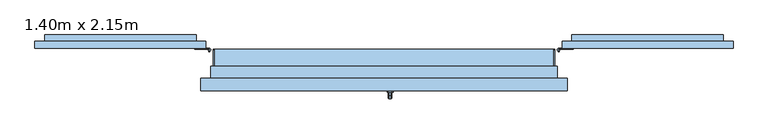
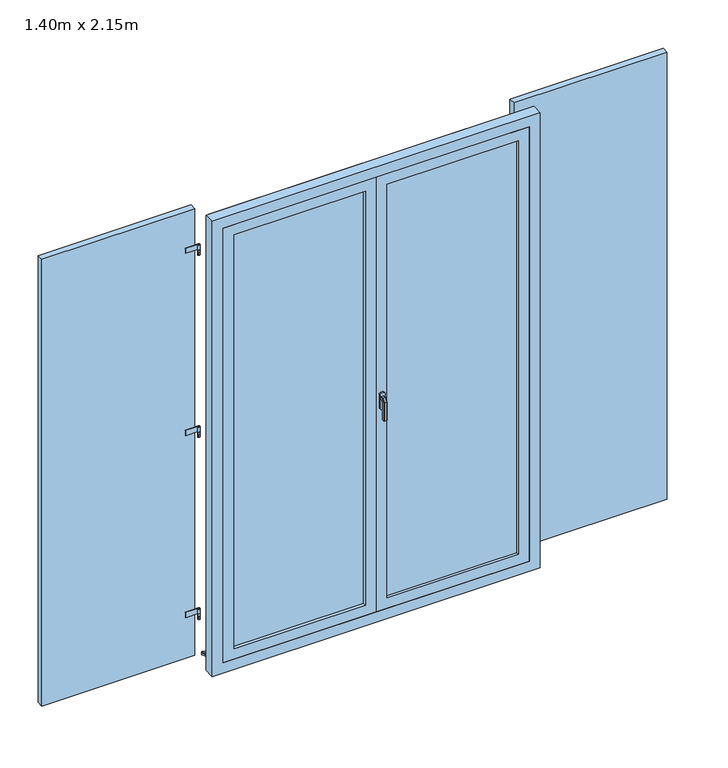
"""IFC4 building model written with IfcOpenShell, lengths in millimetres: window geometry, PF 2 Vantaux droits - Volets et petits bois : 1.40m x 2.15m."""

from ifc_helpers import new_model, si_unit, point, frame, frame_2d, origin, place, context, project, spatial, polyline, circle_curve, trimmed, segment, composite_curve, outline, extrude, faceted_brep, source, transform, mapped, element, save
from ifc_brep_helpers import plane_surface, cylinder_surface, advanced_brep


def window_1_40m_x_2_15m_9bc1c939(model_context):
    return source(origin(), model_context, "Body", "SolidModel", [
        extrude(outline(polyline([(-1430.0, 93.0), (-1430.0, 123.0), (-730.0, 123.0), (-730.0, 93.0), (-1430.0, 93.0)])), frame((0.0, 0.0, 25.0), z_axis=(0.0, 0.0, 1.0), x_axis=(1.0, 0.0, 0.0)), (0.0, 0.0, 1.0), 2160.0),
        advanced_brep(
        [(-710.0, 88.0, 225.0), (-720.0, 88.0, 225.0), (-710.0, 88.0, 200.0), (-720.0, 88.0, 200.0), (-717.0, 83.4174243, 205.0), (-717.0, 83.4174243, 215.0), (-713.0, 83.4174243, 215.0), (-713.0, 83.4174243, 205.0), (-713.0, 80.0, 215.0), (-717.0, 80.0, 215.0), (-717.0, 80.0, 205.0), (-713.0, 80.0, 205.0)],
        [
            (0, 1, circle_curve(frame((-715.0, 88.0, 225.0), z_axis=(0.0, 0.0, 1.0), x_axis=(-1.0, 0.0, 0.0)), 5.0)),
            (1, 0, circle_curve(frame((-715.0, 88.0, 225.0), z_axis=(0.0, 0.0, 1.0), x_axis=(-1.0, 0.0, 0.0)), 5.0)),
            (2, 3, circle_curve(frame((-715.0, 88.0, 200.0), z_axis=(0.0, 0.0, -1.0), x_axis=(-1.0, 0.0, 0.0)), 5.0)),
            (3, 2, circle_curve(frame((-715.0, 88.0, 200.0), z_axis=(0.0, 0.0, -1.0), x_axis=(-1.0, 0.0, 0.0)), 5.0)),
            (1, 3),
            (2, 0),
            (4, 5),
            (5, 6, circle_curve(frame((-715.0, 88.0, 215.0), z_axis=(0.0, 0.0, 1.0), x_axis=(-1.0, 0.0, 0.0)), 5.0)),
            (6, 7),
            (7, 4, circle_curve(frame((-715.0, 88.0, 205.0), z_axis=(0.0, 0.0, -1.0), x_axis=(-1.0, 0.0, 0.0)), 5.0)),
            (8, 6),
            (5, 9),
            (9, 8),
            (10, 4),
            (7, 11),
            (11, 10),
            (10, 9),
            (8, 11),
        ],
        [
            plane_surface(frame((-720.0, 88.0, 225.0), z_axis=(0.0, 0.0, 1.0), x_axis=(0.0, 1.0, 0.0))),
            plane_surface(frame((-720.0, 88.0, 200.0), z_axis=(0.0, 0.0, -1.0), x_axis=(0.0, -1.0, 0.0))),
            cylinder_surface(frame((-715.0, 88.0, 200.0), z_axis=(0.0, 0.0, 1.0), x_axis=(-1.0, 0.0, 0.0)), 5.0),
            plane_surface(frame((-717.0, 80.0, 215.0), z_axis=(0.0, 0.0, 1.0), x_axis=(0.0, 1.0, 0.0))),
            plane_surface(frame((-717.0, 80.0, 205.0), z_axis=(0.0, 0.0, -1.0), x_axis=(0.0, -1.0, 0.0))),
            plane_surface(frame((-717.0, 80.0, 215.0), z_axis=(-1.0, 0.0, 0.0), x_axis=(0.0, 0.0, -1.0))),
            plane_surface(frame((-713.0, 85.0, 215.0), z_axis=(1.0, 0.0, 0.0), x_axis=(0.0, 0.0, -1.0))),
            plane_surface(frame((-713.0, 80.0, 215.0), z_axis=(0.0, -1.0, 0.0), x_axis=(0.0, 0.0, -1.0))),
        ],
        [
            (0, [[1, 2]]),
            (1, [[3, 4]]),
            (2, [[5, -3, 6, -2], [7, 8, 9, 10]]),
            (2, [[-6, -4, -5, -1]]),
            (3, [[11, -8, 12, 13]]),
            (4, [[14, -10, 15, 16]]),
            (5, [[-12, -7, -14, 17]]),
            (6, [[-15, -9, -11, 18]]),
            (7, [[-17, -16, -18, -13]]),
        ],
    ),
        extrude(outline(composite_curve([segment(trimmed(circle_curve(frame_2d((-715.0, 88.0)), 5.0), [point((-715.0, 93.0))], [point((-720.0, 88.0))], False, "CARTESIAN"), True, "CONTINUOUS"), segment(polyline([(-720.0, 88.0), (-717.5, 88.0)]), True, "CONTINUOUS"), segment(trimmed(circle_curve(frame_2d((-715.0, 88.0)), 2.5), [point((-717.5, 88.0))], [point((-715.0, 90.5))], True, "CARTESIAN"), True, "CONTINUOUS"), segment(polyline([(-715.0, 90.5), (-774.3092325, 90.5), (-774.3092325, 93.0), (-715.0, 93.0)]), True, "CONTINUOUS")], self_intersect=False)), frame((0.0, 0.0, 225.0), z_axis=(0.0, 0.0, 1.0), x_axis=(1.0, 0.0, 0.0)), (0.0, 0.0, 1.0), 25.0),
        extrude(outline(composite_curve([segment(trimmed(circle_curve(frame_2d((-715.0, 88.0)), 2.5), [point((-712.5, 88.0))], [point((-717.5, 88.0))], False, "CARTESIAN"), True, "CONTINUOUS"), segment(trimmed(circle_curve(frame_2d((-715.0, 88.0)), 2.5), [point((-717.5, 88.0))], [point((-712.5, 88.0))], False, "CARTESIAN"), True, "CONTINUOUS")], self_intersect=False)), frame((0.0, 0.0, 225.0), z_axis=(0.0, 0.0, 1.0), x_axis=(1.0, 0.0, 0.0)), (0.0, 0.0, 1.0), 25.0),
        advanced_brep(
        [(-710.0, 88.0, 1985.0), (-720.0, 88.0, 1985.0), (-710.0, 88.0, 1960.0), (-720.0, 88.0, 1960.0), (-713.0, 83.4174243, 1975.0), (-713.0, 83.4174243, 1965.0), (-717.0, 83.4174243, 1965.0), (-717.0, 83.4174243, 1975.0), (-713.0, 80.0, 1975.0), (-717.0, 80.0, 1975.0), (-713.0, 80.0, 1965.0), (-717.0, 80.0, 1965.0)],
        [
            (0, 1, circle_curve(frame((-715.0, 88.0, 1985.0), z_axis=(0.0, 0.0, 1.0), x_axis=(-1.0, 0.0, 0.0)), 5.0)),
            (1, 0, circle_curve(frame((-715.0, 88.0, 1985.0), z_axis=(0.0, 0.0, 1.0), x_axis=(-1.0, 0.0, 0.0)), 5.0)),
            (2, 3, circle_curve(frame((-715.0, 88.0, 1960.0), z_axis=(0.0, 0.0, -1.0), x_axis=(-1.0, 0.0, 0.0)), 5.0)),
            (3, 2, circle_curve(frame((-715.0, 88.0, 1960.0), z_axis=(0.0, 0.0, -1.0), x_axis=(-1.0, 0.0, 0.0)), 5.0)),
            (1, 3),
            (2, 0),
            (4, 5),
            (5, 6, circle_curve(frame((-715.0, 88.0, 1965.0), z_axis=(0.0, 0.0, -1.0), x_axis=(-1.0, 0.0, 0.0)), 5.0)),
            (6, 7),
            (7, 4, circle_curve(frame((-715.0, 88.0, 1975.0), z_axis=(0.0, 0.0, 1.0), x_axis=(-1.0, 0.0, 0.0)), 5.0)),
            (8, 4),
            (7, 9),
            (9, 8),
            (10, 11),
            (11, 6),
            (5, 10),
            (9, 11),
            (10, 8),
        ],
        [
            plane_surface(frame((-720.0, 88.0, 1985.0), z_axis=(0.0, 0.0, 1.0), x_axis=(0.0, 1.0, 0.0))),
            plane_surface(frame((-720.0, 88.0, 1960.0), z_axis=(0.0, 0.0, -1.0), x_axis=(0.0, -1.0, 0.0))),
            cylinder_surface(frame((-715.0, 88.0, 1960.0), z_axis=(0.0, 0.0, 1.0), x_axis=(-1.0, 0.0, 0.0)), 5.0),
            plane_surface(frame((-713.0, 80.0, 1975.0), z_axis=(0.0, 0.0, 1.0), x_axis=(-1.0, 0.0, 0.0))),
            plane_surface(frame((-713.0, 80.0, 1965.0), z_axis=(0.0, 0.0, -1.0), x_axis=(1.0, 0.0, 0.0))),
            plane_surface(frame((-713.0, 80.0, 1975.0), z_axis=(0.0, -1.0, 0.0), x_axis=(0.0, 0.0, -1.0))),
            plane_surface(frame((-717.0, 80.0, 1975.0), z_axis=(-1.0, 0.0, 0.0), x_axis=(0.0, 0.0, -1.0))),
            plane_surface(frame((-713.0, 83.4174243, 1975.0), z_axis=(1.0, 0.0, 0.0), x_axis=(0.0, 0.0, -1.0))),
        ],
        [
            (0, [[1, 2]]),
            (1, [[3, 4]]),
            (2, [[5, -3, 6, -2], [7, 8, 9, 10]]),
            (2, [[-6, -4, -5, -1]]),
            (3, [[11, -10, 12, 13]]),
            (4, [[14, 15, -8, 16]]),
            (5, [[17, -14, 18, -13]]),
            (6, [[-9, -15, -17, -12]]),
            (7, [[-18, -16, -7, -11]]),
        ],
    ),
        extrude(outline(polyline([(-713.0, 80.0), (-717.0, 80.0), (-717.0, 83.4174243), (-713.0, 83.4174243), (-713.0, 80.0)])), frame((0.0, 0.0, 1085.0), z_axis=(0.0, 0.0, 1.0), x_axis=(1.0, 0.0, 0.0)), (0.0, 0.0, 1.0), 10.0),
        extrude(outline(composite_curve([segment(trimmed(circle_curve(frame_2d((-715.0, 88.0)), 5.0), [point((-715.0, 93.0))], [point((-720.0, 88.0))], False, "CARTESIAN"), True, "CONTINUOUS"), segment(polyline([(-720.0, 88.0), (-717.5, 88.0)]), True, "CONTINUOUS"), segment(trimmed(circle_curve(frame_2d((-715.0, 88.0)), 2.5), [point((-717.5, 88.0))], [point((-712.5, 88.0))], True, "CARTESIAN"), True, "CONTINUOUS"), segment(trimmed(circle_curve(frame_2d((-715.0, 88.0)), 2.5), [point((-712.5, 88.0))], [point((-715.0, 90.5))], True, "CARTESIAN"), True, "CONTINUOUS"), segment(polyline([(-715.0, 90.5), (-774.3092325, 90.5), (-774.3092325, 93.0), (-715.0, 93.0)]), True, "CONTINUOUS")], self_intersect=False)), frame((0.0, 0.0, 1105.0), z_axis=(0.0, 0.0, 1.0), x_axis=(1.0, 0.0, 0.0)), (0.0, 0.0, 1.0), 25.0),
        extrude(outline(composite_curve([segment(trimmed(circle_curve(frame_2d((-715.0, 88.0)), 2.5), [point((-712.5, 88.0))], [point((-717.5, 88.0))], False, "CARTESIAN"), True, "CONTINUOUS"), segment(trimmed(circle_curve(frame_2d((-715.0, 88.0)), 2.5), [point((-717.5, 88.0))], [point((-712.5, 88.0))], False, "CARTESIAN"), True, "CONTINUOUS")], self_intersect=False)), frame((0.0, 0.0, 1105.0), z_axis=(0.0, 0.0, 1.0), x_axis=(1.0, 0.0, 0.0)), (0.0, 0.0, 1.0), 25.0),
        extrude(outline(composite_curve([segment(trimmed(circle_curve(frame_2d((-715.0, 88.0)), 5.0), [point((-710.0, 88.0))], [point((-720.0, 88.0))], False, "CARTESIAN"), True, "CONTINUOUS"), segment(trimmed(circle_curve(frame_2d((-715.0, 88.0)), 5.0), [point((-720.0, 88.0))], [point((-710.0, 88.0))], False, "CARTESIAN"), True, "CONTINUOUS")], self_intersect=False)), frame((0.0, 0.0, 1080.0), z_axis=(0.0, 0.0, 1.0), x_axis=(1.0, 0.0, 0.0)), (0.0, 0.0, 1.0), 25.0),
        extrude(outline(composite_curve([segment(trimmed(circle_curve(frame_2d((-715.0, 88.0)), 5.0), [point((-715.0, 93.0))], [point((-720.0, 88.0))], False, "CARTESIAN"), True, "CONTINUOUS"), segment(polyline([(-720.0, 88.0), (-717.5, 88.0)]), True, "CONTINUOUS"), segment(trimmed(circle_curve(frame_2d((-715.0, 88.0)), 2.5), [point((-717.5, 88.0))], [point((-715.0, 90.5))], True, "CARTESIAN"), True, "CONTINUOUS"), segment(polyline([(-715.0, 90.5), (-774.3092325, 90.5), (-774.3092325, 93.0), (-715.0, 93.0)]), True, "CONTINUOUS")], self_intersect=False)), frame((0.0, 0.0, 1985.0), z_axis=(0.0, 0.0, 1.0), x_axis=(1.0, 0.0, 0.0)), (0.0, 0.0, 1.0), 25.0),
        extrude(outline(composite_curve([segment(trimmed(circle_curve(frame_2d((-715.0, 88.0)), 2.5), [point((-712.5, 88.0))], [point((-717.5, 88.0))], False, "CARTESIAN"), True, "CONTINUOUS"), segment(trimmed(circle_curve(frame_2d((-715.0, 88.0)), 2.5), [point((-717.5, 88.0))], [point((-712.5, 88.0))], False, "CARTESIAN"), True, "CONTINUOUS")], self_intersect=False)), frame((0.0, 0.0, 1985.0), z_axis=(0.0, 0.0, 1.0), x_axis=(1.0, 0.0, 0.0)), (0.0, 0.0, 1.0), 25.0),
        extrude(outline(polyline([(1945.0, -1294.3474888), (1945.0, -1390.0), (1145.0, -865.6525112), (1145.0, -770.0), (1945.0, -1294.3474888)])), frame((0.0, 123.0, 0.0), z_axis=(0.0, 1.0, 0.0), x_axis=(0.0, 0.0, 1.0)), (0.0, 0.0, 1.0), 25.0),
        extrude(outline(polyline([(265.0, -865.6532364), (265.0, -770.0007252), (1065.0, -1294.3482141), (1065.0, -1390.0007252), (265.0, -865.6532364)])), frame((0.0, 123.0, 0.0), z_axis=(0.0, 1.0, 0.0), x_axis=(0.0, 0.0, 1.0)), (0.0, 0.0, 1.0), 25.0),
        extrude(outline(polyline([(-770.0, 148.0), (-770.0, 123.0), (-1390.0, 123.0), (-1390.0, 148.0), (-770.0, 148.0)])), frame((0.0, 0.0, 1945.0), z_axis=(0.0, 0.0, 1.0), x_axis=(1.0, 0.0, 0.0)), (0.0, 0.0, 1.0), 80.0),
        extrude(outline(polyline([(-770.0, 148.0), (-770.0, 123.0), (-1390.0, 123.0), (-1390.0, 148.0), (-770.0, 148.0)])), frame((0.0, 0.0, 185.0), z_axis=(0.0, 0.0, 1.0), x_axis=(1.0, 0.0, 0.0)), (0.0, 0.0, 1.0), 80.0),
        extrude(outline(polyline([(-770.0, 148.0), (-770.0, 123.0), (-1390.0, 123.0), (-1390.0, 148.0), (-770.0, 148.0)])), frame((0.0, 0.0, 1065.0), z_axis=(0.0, 0.0, 1.0), x_axis=(1.0, 0.0, 0.0)), (0.0, 0.0, 1.0), 80.0),
        extrude(outline(polyline([(1430.0, 93.0), (730.0, 93.0), (730.0, 123.0), (1430.0, 123.0), (1430.0, 93.0)])), frame((0.0, 0.0, 25.0), z_axis=(0.0, 0.0, 1.0), x_axis=(1.0, 0.0, 0.0)), (0.0, 0.0, 1.0), 2160.0),
        advanced_brep(
        [(710.0, 88.0, 225.0), (720.0, 88.0, 225.0), (710.0, 88.0, 200.0), (720.0, 88.0, 200.0), (717.0, 83.4174243, 205.0), (713.0, 83.4174243, 205.0), (713.0, 83.4174243, 215.0), (717.0, 83.4174243, 215.0), (713.0, 80.0, 215.0), (717.0, 80.0, 215.0), (717.0, 80.0, 205.0), (713.0, 80.0, 205.0)],
        [
            (0, 1, circle_curve(frame((715.0, 88.0, 225.0), z_axis=(0.0, 0.0, 1.0), x_axis=(1.0, 0.0, 0.0)), 5.0)),
            (1, 0, circle_curve(frame((715.0, 88.0, 225.0), z_axis=(0.0, 0.0, 1.0), x_axis=(1.0, 0.0, 0.0)), 5.0)),
            (2, 3, circle_curve(frame((715.0, 88.0, 200.0), z_axis=(0.0, 0.0, -1.0), x_axis=(1.0, 0.0, 0.0)), 5.0)),
            (3, 2, circle_curve(frame((715.0, 88.0, 200.0), z_axis=(0.0, 0.0, -1.0), x_axis=(1.0, 0.0, 0.0)), 5.0)),
            (0, 2),
            (3, 1),
            (4, 5, circle_curve(frame((715.0, 88.0, 205.0), z_axis=(0.0, 0.0, -1.0), x_axis=(1.0, 0.0, 0.0)), 5.0)),
            (5, 6),
            (6, 7, circle_curve(frame((715.0, 88.0, 215.0), z_axis=(0.0, 0.0, 1.0), x_axis=(1.0, 0.0, 0.0)), 5.0)),
            (7, 4),
            (8, 9),
            (9, 7),
            (6, 8),
            (10, 11),
            (11, 5),
            (4, 10),
            (9, 10),
            (11, 8),
        ],
        [
            plane_surface(frame((720.0, 88.0, 225.0), z_axis=(0.0, 0.0, 1.0), x_axis=(0.0, 1.0, 0.0))),
            plane_surface(frame((720.0, 88.0, 200.0), z_axis=(0.0, 0.0, -1.0), x_axis=(0.0, -1.0, 0.0))),
            cylinder_surface(frame((715.0, 88.0, 200.0), z_axis=(0.0, 0.0, 1.0), x_axis=(1.0, 0.0, 0.0)), 5.0),
            plane_surface(frame((717.0, 80.0, 215.0), z_axis=(0.0, 0.0, 1.0), x_axis=(0.0, 1.0, 0.0))),
            plane_surface(frame((717.0, 80.0, 205.0), z_axis=(0.0, 0.0, -1.0), x_axis=(0.0, -1.0, 0.0))),
            plane_surface(frame((717.0, 80.0, 215.0), z_axis=(1.0, 0.0, 0.0), x_axis=(0.0, 0.0, -1.0))),
            plane_surface(frame((713.0, 85.0, 215.0), z_axis=(-1.0, 0.0, 0.0), x_axis=(0.0, 0.0, -1.0))),
            plane_surface(frame((713.0, 80.0, 215.0), z_axis=(0.0, -1.0, 0.0), x_axis=(0.0, 0.0, -1.0))),
        ],
        [
            (0, [[1, 2]]),
            (1, [[3, 4]]),
            (2, [[-1, 5, -4, 6], [7, 8, 9, 10]]),
            (2, [[-2, -6, -3, -5]]),
            (3, [[11, 12, -9, 13]]),
            (4, [[14, 15, -7, 16]]),
            (5, [[17, -16, -10, -12]]),
            (6, [[18, -13, -8, -15]]),
            (7, [[-11, -18, -14, -17]]),
        ],
    ),
        extrude(outline(composite_curve([segment(polyline([(715.0, 93.0), (774.3092325, 93.0), (774.3092325, 90.5), (715.0, 90.5)]), True, "CONTINUOUS"), segment(trimmed(circle_curve(frame_2d((715.0, 88.0)), 2.5), [point((715.0, 90.5))], [point((717.5, 88.0))], True, "CARTESIAN"), True, "CONTINUOUS"), segment(polyline([(717.5, 88.0), (720.0, 88.0)]), True, "CONTINUOUS"), segment(trimmed(circle_curve(frame_2d((715.0, 88.0)), 5.0), [point((720.0, 88.0))], [point((715.0, 93.0))], False, "CARTESIAN"), True, "CONTINUOUS")], self_intersect=False)), frame((0.0, 0.0, 225.0), z_axis=(0.0, 0.0, 1.0), x_axis=(1.0, 0.0, 0.0)), (0.0, 0.0, 1.0), 25.0),
        extrude(outline(composite_curve([segment(trimmed(circle_curve(frame_2d((715.0, 88.0)), 2.5), [point((712.5, 88.0))], [point((717.5, 88.0))], False, "CARTESIAN"), True, "CONTINUOUS"), segment(trimmed(circle_curve(frame_2d((715.0, 88.0)), 2.5), [point((717.5, 88.0))], [point((712.5, 88.0))], False, "CARTESIAN"), True, "CONTINUOUS")], self_intersect=False)), frame((0.0, 0.0, 225.0), z_axis=(0.0, 0.0, 1.0), x_axis=(1.0, 0.0, 0.0)), (0.0, 0.0, 1.0), 25.0),
        advanced_brep(
        [(710.0, 88.0, 1985.0), (720.0, 88.0, 1985.0), (710.0, 88.0, 1960.0), (720.0, 88.0, 1960.0), (713.0, 83.4174243, 1975.0), (717.0, 83.4174243, 1975.0), (717.0, 83.4174243, 1965.0), (713.0, 83.4174243, 1965.0), (713.0, 80.0, 1975.0), (717.0, 80.0, 1975.0), (713.0, 80.0, 1965.0), (717.0, 80.0, 1965.0)],
        [
            (0, 1, circle_curve(frame((715.0, 88.0, 1985.0), z_axis=(0.0, 0.0, 1.0), x_axis=(1.0, 0.0, 0.0)), 5.0)),
            (1, 0, circle_curve(frame((715.0, 88.0, 1985.0), z_axis=(0.0, 0.0, 1.0), x_axis=(1.0, 0.0, 0.0)), 5.0)),
            (2, 3, circle_curve(frame((715.0, 88.0, 1960.0), z_axis=(0.0, 0.0, -1.0), x_axis=(1.0, 0.0, 0.0)), 5.0)),
            (3, 2, circle_curve(frame((715.0, 88.0, 1960.0), z_axis=(0.0, 0.0, -1.0), x_axis=(1.0, 0.0, 0.0)), 5.0)),
            (0, 2),
            (3, 1),
            (4, 5, circle_curve(frame((715.0, 88.0, 1975.0), z_axis=(0.0, 0.0, 1.0), x_axis=(1.0, 0.0, 0.0)), 5.0)),
            (5, 6),
            (6, 7, circle_curve(frame((715.0, 88.0, 1965.0), z_axis=(0.0, 0.0, -1.0), x_axis=(1.0, 0.0, 0.0)), 5.0)),
            (7, 4),
            (8, 9),
            (9, 5),
            (4, 8),
            (10, 7),
            (6, 11),
            (11, 10),
            (8, 10),
            (11, 9),
        ],
        [
            plane_surface(frame((720.0, 88.0, 1985.0), z_axis=(0.0, 0.0, 1.0), x_axis=(0.0, 1.0, 0.0))),
            plane_surface(frame((720.0, 88.0, 1960.0), z_axis=(0.0, 0.0, -1.0), x_axis=(0.0, -1.0, 0.0))),
            cylinder_surface(frame((715.0, 88.0, 1960.0), z_axis=(0.0, 0.0, 1.0), x_axis=(1.0, 0.0, 0.0)), 5.0),
            plane_surface(frame((713.0, 80.0, 1975.0), z_axis=(0.0, 0.0, 1.0), x_axis=(1.0, 0.0, 0.0))),
            plane_surface(frame((713.0, 80.0, 1965.0), z_axis=(0.0, 0.0, -1.0), x_axis=(-1.0, 0.0, 0.0))),
            plane_surface(frame((713.0, 80.0, 1975.0), z_axis=(0.0, -1.0, 0.0), x_axis=(0.0, 0.0, -1.0))),
            plane_surface(frame((717.0, 80.0, 1975.0), z_axis=(1.0, 0.0, 0.0), x_axis=(0.0, 0.0, -1.0))),
            plane_surface(frame((713.0, 83.4174243, 1975.0), z_axis=(-1.0, 0.0, 0.0), x_axis=(0.0, 0.0, -1.0))),
        ],
        [
            (0, [[1, 2]]),
            (1, [[3, 4]]),
            (2, [[-1, 5, -4, 6], [7, 8, 9, 10]]),
            (2, [[-2, -6, -3, -5]]),
            (3, [[11, 12, -7, 13]]),
            (4, [[14, -9, 15, 16]]),
            (5, [[-11, 17, -16, 18]]),
            (6, [[-12, -18, -15, -8]]),
            (7, [[-13, -10, -14, -17]]),
        ],
    ),
        extrude(outline(polyline([(713.0, 80.0), (713.0, 83.4174243), (717.0, 83.4174243), (717.0, 80.0), (713.0, 80.0)])), frame((0.0, 0.0, 1085.0), z_axis=(0.0, 0.0, 1.0), x_axis=(1.0, 0.0, 0.0)), (0.0, 0.0, 1.0), 10.0),
        extrude(outline(composite_curve([segment(polyline([(715.0, 93.0), (774.3092325, 93.0), (774.3092325, 90.5), (715.0, 90.5)]), True, "CONTINUOUS"), segment(trimmed(circle_curve(frame_2d((715.0, 88.0)), 2.5), [point((715.0, 90.5))], [point((712.5, 88.0))], True, "CARTESIAN"), True, "CONTINUOUS"), segment(trimmed(circle_curve(frame_2d((715.0, 88.0)), 2.5), [point((712.5, 88.0))], [point((717.5, 88.0))], True, "CARTESIAN"), True, "CONTINUOUS"), segment(polyline([(717.5, 88.0), (720.0, 88.0)]), True, "CONTINUOUS"), segment(trimmed(circle_curve(frame_2d((715.0, 88.0)), 5.0), [point((720.0, 88.0))], [point((715.0, 93.0))], False, "CARTESIAN"), True, "CONTINUOUS")], self_intersect=False)), frame((0.0, 0.0, 1105.0), z_axis=(0.0, 0.0, 1.0), x_axis=(1.0, 0.0, 0.0)), (0.0, 0.0, 1.0), 25.0),
        extrude(outline(composite_curve([segment(trimmed(circle_curve(frame_2d((715.0, 88.0)), 2.5), [point((712.5, 88.0))], [point((717.5, 88.0))], False, "CARTESIAN"), True, "CONTINUOUS"), segment(trimmed(circle_curve(frame_2d((715.0, 88.0)), 2.5), [point((717.5, 88.0))], [point((712.5, 88.0))], False, "CARTESIAN"), True, "CONTINUOUS")], self_intersect=False)), frame((0.0, 0.0, 1105.0), z_axis=(0.0, 0.0, 1.0), x_axis=(1.0, 0.0, 0.0)), (0.0, 0.0, 1.0), 25.0),
        extrude(outline(composite_curve([segment(trimmed(circle_curve(frame_2d((715.0, 88.0)), 5.0), [point((710.0, 88.0))], [point((720.0, 88.0))], False, "CARTESIAN"), True, "CONTINUOUS"), segment(trimmed(circle_curve(frame_2d((715.0, 88.0)), 5.0), [point((720.0, 88.0))], [point((710.0, 88.0))], False, "CARTESIAN"), True, "CONTINUOUS")], self_intersect=False)), frame((0.0, 0.0, 1080.0), z_axis=(0.0, 0.0, 1.0), x_axis=(1.0, 0.0, 0.0)), (0.0, 0.0, 1.0), 25.0),
        extrude(outline(composite_curve([segment(polyline([(715.0, 93.0), (774.3092325, 93.0), (774.3092325, 90.5), (715.0, 90.5)]), True, "CONTINUOUS"), segment(trimmed(circle_curve(frame_2d((715.0, 88.0)), 2.5), [point((715.0, 90.5))], [point((717.5, 88.0))], True, "CARTESIAN"), True, "CONTINUOUS"), segment(polyline([(717.5, 88.0), (720.0, 88.0)]), True, "CONTINUOUS"), segment(trimmed(circle_curve(frame_2d((715.0, 88.0)), 5.0), [point((720.0, 88.0))], [point((715.0, 93.0))], False, "CARTESIAN"), True, "CONTINUOUS")], self_intersect=False)), frame((0.0, 0.0, 1985.0), z_axis=(0.0, 0.0, 1.0), x_axis=(1.0, 0.0, 0.0)), (0.0, 0.0, 1.0), 25.0),
        extrude(outline(composite_curve([segment(trimmed(circle_curve(frame_2d((715.0, 88.0)), 2.5), [point((712.5, 88.0))], [point((717.5, 88.0))], False, "CARTESIAN"), True, "CONTINUOUS"), segment(trimmed(circle_curve(frame_2d((715.0, 88.0)), 2.5), [point((717.5, 88.0))], [point((712.5, 88.0))], False, "CARTESIAN"), True, "CONTINUOUS")], self_intersect=False)), frame((0.0, 0.0, 1985.0), z_axis=(0.0, 0.0, 1.0), x_axis=(1.0, 0.0, 0.0)), (0.0, 0.0, 1.0), 25.0),
        extrude(outline(polyline([(1945.0, 1294.3474888), (1145.0, 770.0), (1145.0, 865.6525112), (1945.0, 1390.0), (1945.0, 1294.3474888)])), frame((0.0, 123.0, 0.0), z_axis=(0.0, 1.0, 0.0), x_axis=(0.0, 0.0, 1.0)), (0.0, 0.0, 1.0), 25.0),
        extrude(outline(polyline([(265.0, 865.6532364), (1065.0, 1390.0007252), (1065.0, 1294.3482141), (265.0, 770.0007252), (265.0, 865.6532364)])), frame((0.0, 123.0, 0.0), z_axis=(0.0, 1.0, 0.0), x_axis=(0.0, 0.0, 1.0)), (0.0, 0.0, 1.0), 25.0),
        extrude(outline(polyline([(770.0, 148.0), (1390.0, 148.0), (1390.0, 123.0), (770.0, 123.0), (770.0, 148.0)])), frame((0.0, 0.0, 1945.0), z_axis=(0.0, 0.0, 1.0), x_axis=(1.0, 0.0, 0.0)), (0.0, 0.0, 1.0), 80.0),
        extrude(outline(polyline([(770.0, 148.0), (1390.0, 148.0), (1390.0, 123.0), (770.0, 123.0), (770.0, 148.0)])), frame((0.0, 0.0, 185.0), z_axis=(0.0, 0.0, 1.0), x_axis=(1.0, 0.0, 0.0)), (0.0, 0.0, 1.0), 80.0),
        extrude(outline(polyline([(770.0, 148.0), (1390.0, 148.0), (1390.0, 123.0), (770.0, 123.0), (770.0, 148.0)])), frame((0.0, 0.0, 1065.0), z_axis=(0.0, 0.0, 1.0), x_axis=(1.0, 0.0, 0.0)), (0.0, 0.0, 1.0), 80.0),
        faceted_brep([(30.6460097, -86.0, 1122.0339292), (32.0339292, -86.0, 1120.6460097), (32.0339292, -86.0, 1109.3323012), (30.6676988, -86.0, 1107.9660708), (19.3323012, -86.0, 1107.9660708), (17.9660708, -86.0, 1109.3323012), (17.9660708, -86.0, 1120.6460097), (19.3539903, -86.0, 1122.0339292), (30.6460097, -98.9135489, 1122.0339292), (32.0339292, -98.3386538, 1120.6460097), (32.0339292, -111.6460097, 1107.3386538), (32.0339292, -111.6460097, 1020.0), (32.0339292, -100.3323012, 1020.0), (32.0339292, -100.3323012, 1102.6523623), (32.0339292, -93.6523623, 1109.3323012), (30.6676988, -93.0864511, 1107.9660708), (19.3323012, -93.0864511, 1107.9660708), (17.9660708, -93.6523623, 1109.3323012), (17.9660708, -100.3323012, 1102.6523623), (17.9660708, -100.3323012, 1020.0), (17.9660708, -111.6460097, 1020.0), (17.9660708, -111.6460097, 1107.3386538), (17.9660708, -98.3386538, 1120.6460097), (19.3539903, -98.9135489, 1122.0339292), (30.6460097, -113.0339292, 1107.9135489), (30.6676988, -98.9660708, 1102.0864511), (19.3323012, -98.9660708, 1102.0864511), (19.3539903, -113.0339292, 1107.9135489), (30.6460097, -113.0339292, 1020.0), (19.3539903, -113.0339292, 1020.0), (19.3323012, -98.9660708, 1020.0), (30.6676988, -98.9660708, 1020.0)], [[[0, 1, 2, 3, 4, 5, 6, 7]], [[1, 0, 8, 9]], [[2, 1, 9, 10, 11, 12, 13, 14]], [[3, 2, 14, 15]], [[4, 3, 15, 16]], [[5, 4, 16, 17]], [[6, 5, 17, 18, 19, 20, 21, 22]], [[7, 6, 22, 23]], [[0, 7, 23, 8]], [[9, 8, 24, 10]], [[15, 14, 13, 25]], [[16, 15, 25, 26]], [[17, 16, 26, 18]], [[23, 22, 21, 27]], [[8, 23, 27, 24]], [[28, 29, 20, 19, 30, 31, 12, 11]], [[10, 24, 28, 11]], [[25, 13, 12, 31]], [[26, 25, 31, 30]], [[18, 26, 30, 19]], [[27, 21, 20, 29]], [[24, 27, 29, 28]]]),
        extrude(outline(polyline([(1140.0, 32.0), (1140.0, 18.0), (1135.0, 13.0), (1065.0, 13.0), (1060.0, 18.0), (1060.0, 32.0), (1065.0, 37.0), (1135.0, 37.0), (1140.0, 32.0)])), frame((0.0, -86.0, 0.0), z_axis=(0.0, 1.0, 0.0), x_axis=(0.0, 0.0, 1.0)), (0.0, 0.0, 1.0), 6.0),
        extrude(outline(polyline([(90.0288776, 30.7927954), (90.0288776, 19.7145929), (85.0288776, 20.2401141), (85.0288776, 26.0631048), (0.0, 35.0), (0.0, 50.0), (5.0, 50.0), (5.0, 39.7296906), (90.0288776, 30.7927954)])), frame((-700.0, 0.0, 0.0), z_axis=(1.0, 0.0, 0.0), x_axis=(0.0, 1.0, 0.0)), (0.0, 0.0, 1.0), 1400.0),
        extrude(outline(composite_curve([segment(polyline([(90.0288776, 30.7927954), (5.0, 39.7296906), (5.0, 44.757232), (86.4469915, 36.1968082)]), True, "CONTINUOUS"), segment(trimmed(circle_curve(frame_2d((86.0288776, 32.2187207)), 4.0), [point((86.4469915, 36.1968082))], [point((90.0288776, 32.2187207))], False, "CARTESIAN"), True, "CONTINUOUS"), segment(polyline([(90.0288776, 32.2187207), (90.0288776, 30.7927954)]), True, "CONTINUOUS")], self_intersect=False)), frame((-700.0, 0.0, 0.0), z_axis=(1.0, 0.0, 0.0), x_axis=(0.0, 1.0, 0.0)), (0.0, 0.0, 1.0), 5.0),
        extrude(outline(composite_curve([segment(polyline([(90.0288776, 30.7927954), (5.0, 39.7296906), (5.0, 44.757232), (86.4469915, 36.1968082)]), True, "CONTINUOUS"), segment(trimmed(circle_curve(frame_2d((86.0288776, 32.2187207)), 4.0), [point((86.4469915, 36.1968082))], [point((90.0288776, 32.2187207))], False, "CARTESIAN"), True, "CONTINUOUS"), segment(polyline([(90.0288776, 32.2187207), (90.0288776, 30.7927954)]), True, "CONTINUOUS")], self_intersect=False)), frame((695.0, 0.0, 0.0), z_axis=(1.0, 0.0, 0.0), x_axis=(0.0, 1.0, 0.0)), (0.0, 0.0, 1.0), 5.0),
        extrude(outline(polyline([(85.0, 0.0), (2185.0, 0.0), (2185.0, -700.0), (85.0, -700.0), (85.0, 0.0)]), holes=[polyline([(135.0, -650.0), (2135.0, -650.0), (2135.0, -50.0), (135.0, -50.0), (135.0, -650.0)])]), frame((0.0, -80.0, 0.0), z_axis=(0.0, 1.0, 0.0), x_axis=(0.0, 0.0, 1.0)), (0.0, 0.0, 1.0), 40.0),
        extrude(outline(polyline([(50.0, -54.0), (650.0, -54.0), (650.0, -66.0), (50.0, -66.0), (50.0, -54.0)])), frame((0.0, 0.0, 135.0), z_axis=(0.0, 0.0, 1.0), x_axis=(1.0, 0.0, 0.0)), (0.0, 0.0, 1.0), 2000.0),
        extrude(outline(polyline([(-650.0, -54.0), (-50.0, -54.0), (-50.0, -66.0), (-650.0, -66.0), (-650.0, -54.0)])), frame((0.0, 0.0, 135.0), z_axis=(0.0, 0.0, 1.0), x_axis=(1.0, 0.0, 0.0)), (0.0, 0.0, 1.0), 2000.0),
        extrude(outline(polyline([(85.0, 700.0), (2185.0, 700.0), (2185.0, 0.0), (85.0, 0.0), (85.0, 700.0)]), holes=[polyline([(135.0, 50.0), (2135.0, 50.0), (2135.0, 650.0), (135.0, 650.0), (135.0, 50.0)])]), frame((0.0, -80.0, 0.0), z_axis=(0.0, 1.0, 0.0), x_axis=(0.0, 0.0, 1.0)), (0.0, 0.0, 1.0), 40.0),
        faceted_brep([(-750.0, -80.0, 35.0), (-750.0, -30.0, 35.0), (-700.0, -30.0, 35.0), (-700.0, 0.0, 35.0), (700.0, 0.0, 35.0), (700.0, -30.0, 35.0), (750.0, -30.0, 35.0), (750.0, -80.0, 35.0), (-750.0, -80.0, 2235.0), (-750.0, -30.0, 2235.0), (750.0, -30.0, 2235.0), (700.0, -30.0, 74.3761425), (-700.0, -30.0, 74.3761425), (-685.0, -30.0, 2170.0), (-685.0, -30.0, 100.0), (685.0, -30.0, 100.0), (685.0, -30.0, 2170.0), (-700.0, 20.0, 60.9786829), (-700.0, 20.0, 45.0), (-700.0, 10.0, 45.0), (-700.0, 10.0, 50.0), (-700.0, 0.0, 50.0), (700.0, 0.0, 50.0), (700.0, 10.0, 50.0), (700.0, 10.0, 45.0), (700.0, 20.0, 45.0), (700.0, 20.0, 60.9786829), (750.0, -80.0, 2235.0), (700.0, -80.0, 2185.0), (700.0, -80.0, 85.0), (-700.0, -80.0, 85.0), (-700.0, -80.0, 2185.0), (-685.0, -40.0, 2170.0), (-685.0, -40.0, 100.0), (685.0, -40.0, 100.0), (685.0, -40.0, 2170.0), (700.0, -40.0, 2185.0), (-700.0, -40.0, 2185.0), (-700.0, -40.0, 85.0), (700.0, -40.0, 85.0)], [[[0, 1, 2, 3, 4, 5, 6, 7]], [[1, 0, 8, 9]], [[1, 9, 10, 6, 5, 11, 12, 2], [13, 14, 15, 16]], [[12, 17, 18, 19, 20, 21, 3, 2]], [[3, 21, 22, 4]], [[4, 22, 23, 24, 25, 26, 11, 5]], [[6, 10, 27, 7]], [[0, 7, 27, 8], [28, 29, 30, 31]], [[13, 32, 33, 14]], [[33, 34, 15, 14]], [[35, 16, 15, 34]], [[17, 12, 11, 26]], [[36, 37, 38, 39], [32, 35, 34, 33]], [[38, 37, 31, 30]], [[30, 29, 39, 38]], [[28, 36, 39, 29]], [[18, 17, 26, 25]], [[19, 18, 25, 24]], [[20, 19, 24, 23]], [[21, 20, 23, 22]], [[13, 16, 35, 32]], [[37, 36, 28, 31]], [[10, 9, 8, 27]]]),
        extrude(outline(polyline([(35.0, -710.0), (35.0, -700.0), (2185.0, -700.0), (2185.0, 700.0), (35.0, 700.0), (35.0, 710.0), (2195.0, 710.0), (2195.0, -710.0), (35.0, -710.0)])), frame((0.0, -30.0, 0.0), z_axis=(0.0, 1.0, 0.0), x_axis=(0.0, 0.0, 1.0)), (0.0, 0.0, 1.0), 50.0),
        extrude(outline(polyline([(20.0, -32.0), (20.0, -40.0), (-20.0, -40.0), (-20.0, -32.0), (20.0, -32.0)])), frame((0.0, 0.0, 100.0), z_axis=(0.0, 0.0, 1.0), x_axis=(1.0, 0.0, 0.0)), (0.0, 0.0, 1.0), 2070.0),
    ])


if __name__ == "__main__":
    model = new_model("IFC4")
    model_context = context("Model", 3, world=origin())
    ifc_project = project(units=[si_unit("LENGTHUNIT", "METRE", prefix="MILLI")], contexts=[model_context])
    site = spatial("IfcSite", under=ifc_project)
    building = spatial("IfcBuilding", under=site)
    placement = place(None, origin())
    window_1_40m_x_2_15m_shape = window_1_40m_x_2_15m_9bc1c939(model_context)
    element("IfcWindow", 1, ObjectType="PF 2 Vantaux droits - Volets et petits bois : 1.40m x 2.15m", at=placement, inside=building, context=model_context, shape_type="MappedRepresentation", body=[
        mapped(window_1_40m_x_2_15m_shape, transform((0.0, 0.0, 0.0), x_axis=(1.0, 0.0, 0.0), y_axis=(0.0, 1.0, 0.0), z_axis=(0.0, 0.0, 1.0))),
    ])
    save(model, "model.ifc")
